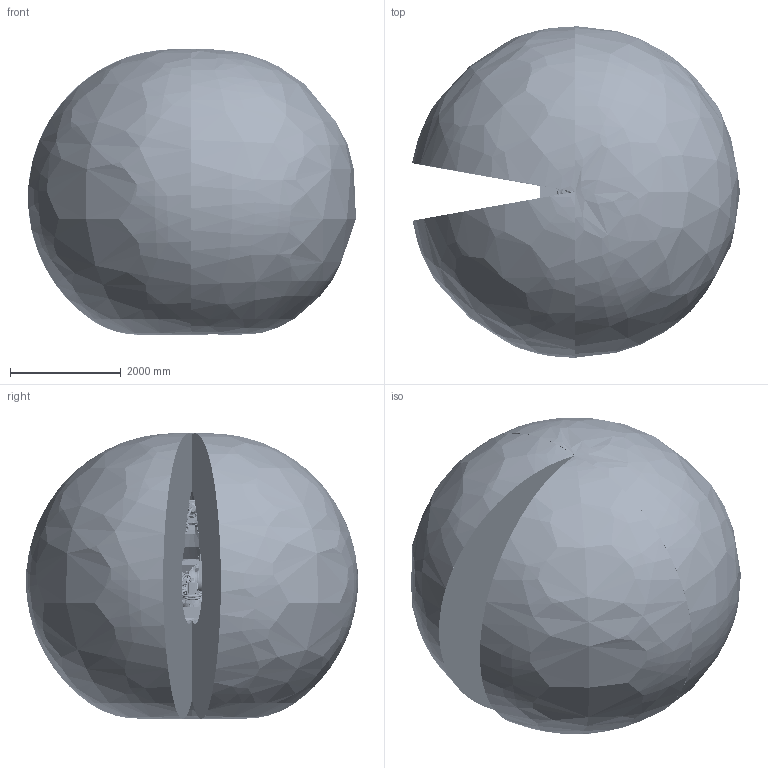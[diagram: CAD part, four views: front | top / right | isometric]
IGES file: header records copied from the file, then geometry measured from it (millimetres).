
Start section: SolidWorks IGES file using analytic representation for surfaces
Global section: file name: C:\Users\SEALDUN\OneDrive - ABB\Documents\R&D Robotics\Work Items\WI 632927 light weight hole removal\IGES\IRB5720-LID-MH_90kg-300_OC_03_IGES_J\IRB5720-LID-MH_90kg-300_OC_03_ASM.igs; native system: SolidWorks 2024; preprocessor: SolidWorks 2024; author: SEALDUN; date: 250708.123017; units: millimetre
Bounding box: 5927.48 x 6000.32 x 5157.6 mm (x, y, z)
Surface area: 149176852.3 mm2 (no closed solid volume)
Topology: 0 solids, 0 shells, 8058 faces, 124967 edges, 124756 vertices
Faces by surface type: bspline 4789, revolution 3269
